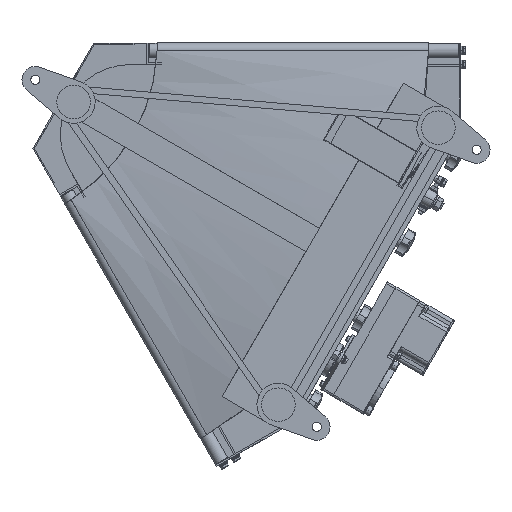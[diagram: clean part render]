
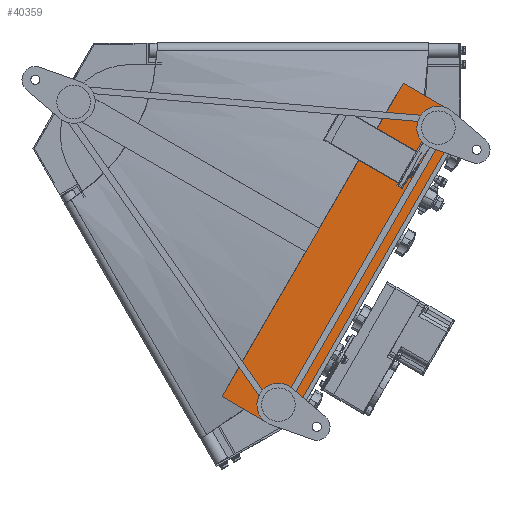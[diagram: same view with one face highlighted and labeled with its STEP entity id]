
A CAD part, front view. The second image highlights one B-rep face of the part: STEP entity #40359.
In plain terms, the highlighted planar face has unit normal (0, -1, 0).
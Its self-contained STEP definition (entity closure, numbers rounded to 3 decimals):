
#610 = VECTOR ( 'NONE', #24847, 1000. ) ;
#6422 = EDGE_CURVE ( 'NONE', #36664, #19760, #49631, .T. ) ;
#10168 = CARTESIAN_POINT ( 'NONE',  ( 612.849, -167.5, -56.493 ) ) ;
#12052 = CARTESIAN_POINT ( 'NONE',  ( 456.952, -167.5, -526.515 ) ) ;
#12573 = DIRECTION ( 'NONE',  ( -0.866, 0., 0.5 ) ) ;
#12901 = VECTOR ( 'NONE', #26425, 1000. ) ;
#12935 = ORIENTED_EDGE ( 'NONE', *, *, #6422, .F. ) ;
#13442 = ORIENTED_EDGE ( 'NONE', *, *, #37469, .F. ) ;
#16225 = CARTESIAN_POINT ( 'NONE',  ( 415.971, -167.5, -537.496 ) ) ;
#17184 = ORIENTED_EDGE ( 'NONE', *, *, #30748, .F. ) ;
#17971 = VECTOR ( 'NONE', #12573, 1000. ) ;
#18154 = VERTEX_POINT ( 'NONE', #10168 ) ;
#18741 = CARTESIAN_POINT ( 'NONE',  ( 684.452, -167.5, -132.474 ) ) ;
#19166 = AXIS2_PLACEMENT_3D ( 'NONE', #26911, #46373, #26411 ) ;
#19199 = LINE ( 'NONE', #40332, #17971 ) ;
#19343 = CARTESIAN_POINT ( 'NONE',  ( 673.471, -167.5, -91.493 ) ) ;
#19760 = VERTEX_POINT ( 'NONE', #35209 ) ;
#19815 = LINE ( 'NONE', #27291, #34490 ) ;
#21561 = LINE ( 'NONE', #48774, #610 ) ;
#24847 = DIRECTION ( 'NONE',  ( 0.5, 0., 0.866 ) ) ;
#26411 = DIRECTION ( 'NONE',  ( 0.208, 0., 0.978 ) ) ;
#26425 = DIRECTION ( 'NONE',  ( 0.259, 0., -0.966 ) ) ;
#26911 = CARTESIAN_POINT ( 'NONE',  ( 95.687, -167.5, -55.245 ) ) ;
#27291 = CARTESIAN_POINT ( 'NONE',  ( 612.849, -167.5, -56.493 ) ) ;
#27971 = VERTEX_POINT ( 'NONE', #30512 ) ;
#29711 = ORIENTED_EDGE ( 'NONE', *, *, #39803, .F. ) ;
#29812 = VECTOR ( 'NONE', #47130, 1000. ) ;
#30512 = CARTESIAN_POINT ( 'NONE',  ( 355.349, -167.5, -502.496 ) ) ;
#30748 = EDGE_CURVE ( 'NONE', #41106, #36664, #40200, .T. ) ;
#30830 = PLANE ( 'NONE',  #19166 ) ;
#31694 = ORIENTED_EDGE ( 'NONE', *, *, #50812, .F. ) ;
#34490 = VECTOR ( 'NONE', #42836, 1000. ) ;
#35209 = CARTESIAN_POINT ( 'NONE',  ( 415.971, -167.5, -537.496 ) ) ;
#35562 = DIRECTION ( 'NONE',  ( -0.966, 0., -0.259 ) ) ;
#35655 = FACE_OUTER_BOUND ( 'NONE', #37678, .T. ) ;
#36664 = VERTEX_POINT ( 'NONE', #41701 ) ;
#36747 = VECTOR ( 'NONE', #35562, 1000. ) ;
#37469 = EDGE_CURVE ( 'NONE', #27971, #18154, #21561, .T. ) ;
#37678 = EDGE_LOOP ( 'NONE', ( #31694, #29711, #13442, #40844, #12935, #17184 ) ) ;
#38679 = LINE ( 'NONE', #18741, #12901 ) ;
#39803 = EDGE_CURVE ( 'NONE', #18154, #48299, #19815, .T. ) ;
#40200 = LINE ( 'NONE', #12052, #29812 ) ;
#40332 = CARTESIAN_POINT ( 'NONE',  ( 355.349, -167.5, -502.496 ) ) ;
#40359 = ADVANCED_FACE ( 'NONE', ( #35655 ), #30830, .F. ) ;
#40788 = CARTESIAN_POINT ( 'NONE',  ( 684.452, -167.5, -132.474 ) ) ;
#40844 = ORIENTED_EDGE ( 'NONE', *, *, #49847, .F. ) ;
#41106 = VERTEX_POINT ( 'NONE', #40788 ) ;
#41701 = CARTESIAN_POINT ( 'NONE',  ( 456.952, -167.5, -526.515 ) ) ;
#42836 = DIRECTION ( 'NONE',  ( 0.866, 0., -0.5 ) ) ;
#46373 = DIRECTION ( 'NONE',  ( 0., 1., 0. ) ) ;
#47130 = DIRECTION ( 'NONE',  ( -0.5, 0., -0.866 ) ) ;
#48299 = VERTEX_POINT ( 'NONE', #19343 ) ;
#48774 = CARTESIAN_POINT ( 'NONE',  ( 355.349, -167.5, -502.496 ) ) ;
#49631 = LINE ( 'NONE', #16225, #36747 ) ;
#49847 = EDGE_CURVE ( 'NONE', #19760, #27971, #19199, .T. ) ;
#50812 = EDGE_CURVE ( 'NONE', #48299, #41106, #38679, .T. ) ;
